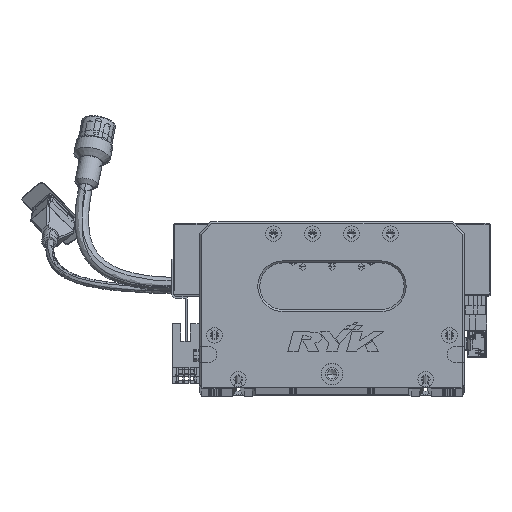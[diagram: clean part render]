
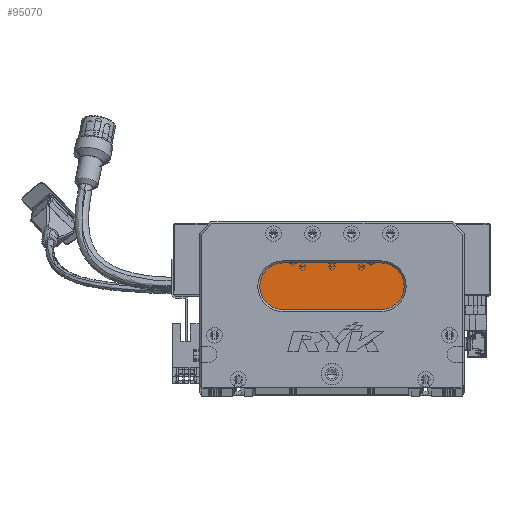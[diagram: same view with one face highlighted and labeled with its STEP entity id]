
A CAD part, top view. The second image highlights one B-rep face of the part: STEP entity #95070.
In plain terms, the highlighted planar face has unit normal (0, 0, 1) as drawn and (0, 0, -1) by its records, which use the part's own axes.
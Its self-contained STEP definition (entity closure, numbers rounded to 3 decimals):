
#2765 = VECTOR ( 'NONE', #21487, 1000. ) ;
#5052 = ORIENTED_EDGE ( 'NONE', *, *, #89303, .T. ) ;
#7053 = CARTESIAN_POINT ( 'NONE',  ( 93., 52., 13. ) ) ;
#8883 = VERTEX_POINT ( 'NONE', #97848 ) ;
#10911 = DIRECTION ( 'NONE',  ( 0., 0., -1. ) ) ;
#21487 = DIRECTION ( 'NONE',  ( 1., 0., 0. ) ) ;
#22620 = AXIS2_PLACEMENT_3D ( 'NONE', #58224, #10911, #57019 ) ;
#24167 = VERTEX_POINT ( 'NONE', #57470 ) ;
#24496 = LINE ( 'NONE', #85891, #2765 ) ;
#24908 = CIRCLE ( 'NONE', #22620, 12. ) ;
#30043 = AXIS2_PLACEMENT_3D ( 'NONE', #95680, #39877, #103839 ) ;
#30756 = ORIENTED_EDGE ( 'NONE', *, *, #66536, .T. ) ;
#31820 = LINE ( 'NONE', #71161, #117264 ) ;
#35228 = DIRECTION ( 'NONE',  ( 0., 0., -1. ) ) ;
#39073 = PLANE ( 'NONE',  #30043 ) ;
#39877 = DIRECTION ( 'NONE',  ( 0., 0., -1. ) ) ;
#52453 = DIRECTION ( 'NONE',  ( -1., 0., 0. ) ) ;
#52520 = EDGE_LOOP ( 'NONE', ( #81041, #30756, #5052, #74417, #96492 ) ) ;
#54534 = CARTESIAN_POINT ( 'NONE',  ( 93., 64., 13. ) ) ;
#54589 = EDGE_CURVE ( 'NONE', #90710, #55463, #70886, .T. ) ;
#55463 = VERTEX_POINT ( 'NONE', #90886 ) ;
#55915 = CIRCLE ( 'NONE', #63975, 12. ) ;
#57019 = DIRECTION ( 'NONE',  ( -1., 0., 0. ) ) ;
#57470 = CARTESIAN_POINT ( 'NONE',  ( 93., 40., 13. ) ) ;
#58224 = CARTESIAN_POINT ( 'NONE',  ( 43., 52., 13. ) ) ;
#61024 = EDGE_CURVE ( 'NONE', #109766, #24167, #55915, .T. ) ;
#63975 = AXIS2_PLACEMENT_3D ( 'NONE', #7053, #71855, #52453 ) ;
#66536 = EDGE_CURVE ( 'NONE', #24167, #8883, #31820, .T. ) ;
#70886 = CIRCLE ( 'NONE', #104349, 12. ) ;
#71161 = CARTESIAN_POINT ( 'NONE',  ( 93., 40., 13. ) ) ;
#71855 = DIRECTION ( 'NONE',  ( 0., 0., -1. ) ) ;
#72418 = FACE_OUTER_BOUND ( 'NONE', #52520, .T. ) ;
#74417 = ORIENTED_EDGE ( 'NONE', *, *, #54589, .T. ) ;
#81041 = ORIENTED_EDGE ( 'NONE', *, *, #61024, .T. ) ;
#81561 = CARTESIAN_POINT ( 'NONE',  ( 31., 52., 13. ) ) ;
#82357 = EDGE_CURVE ( 'NONE', #55463, #109766, #24496, .T. ) ;
#82877 = DIRECTION ( 'NONE',  ( -1., 0., 0. ) ) ;
#83404 = CARTESIAN_POINT ( 'NONE',  ( 43., 52., 13. ) ) ;
#85891 = CARTESIAN_POINT ( 'NONE',  ( 93., 64., 13. ) ) ;
#89303 = EDGE_CURVE ( 'NONE', #8883, #90710, #24908, .T. ) ;
#90710 = VERTEX_POINT ( 'NONE', #81561 ) ;
#90886 = CARTESIAN_POINT ( 'NONE',  ( 43., 64., 13. ) ) ;
#95070 = ADVANCED_FACE ( 'NONE', ( #72418 ), #39073, .T. ) ;
#95680 = CARTESIAN_POINT ( 'NONE',  ( 93., 52., 13. ) ) ;
#96492 = ORIENTED_EDGE ( 'NONE', *, *, #82357, .T. ) ;
#97848 = CARTESIAN_POINT ( 'NONE',  ( 43., 40., 13. ) ) ;
#100007 = DIRECTION ( 'NONE',  ( -1., 0., 0. ) ) ;
#103839 = DIRECTION ( 'NONE',  ( -1., 0., 0. ) ) ;
#104349 = AXIS2_PLACEMENT_3D ( 'NONE', #83404, #35228, #100007 ) ;
#109766 = VERTEX_POINT ( 'NONE', #54534 ) ;
#117264 = VECTOR ( 'NONE', #82877, 1000. ) ;
